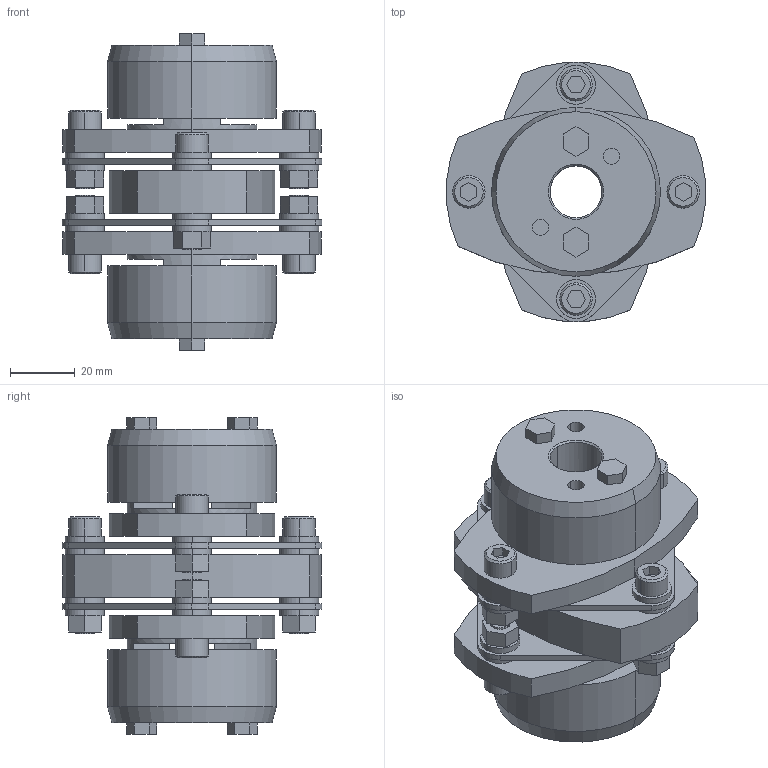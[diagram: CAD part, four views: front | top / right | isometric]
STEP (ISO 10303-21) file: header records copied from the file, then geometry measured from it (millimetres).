
FILE_DESCRIPTION((''),'2;1');
FILE_NAME('LCD-80T7-16×18.stp','2015-10-31T17:18:25',(''),(''),'AutoCAD STEP 2000i','AutoCAD 2000i',', , ');
FILE_SCHEMA(('CONFIG_CONTROL_DESIGN'));
Length unit declared in the file: millimetre
Products named in the file (5): LCD-80T7-17×17; 忣兜1; LC80T7-T017-1; LC80T7-T017; LCD80-ITA
Assembly tree (4 placements, depth 2):
  LCD-80T7-17×17
    忣兜1
    LC80T7-T017-1
    LC80T7-T017
    LCD80-ITA
Bounding box: 80 x 79.95 x 97.5 mm (x, y, z)
Volume: 183837.3 mm3; surface area: 56723.1 mm2
Topology: 1 solids, 1 shells, 306 faces, 744 edges, 488 vertices
Faces by surface type: plane 162, cylinder 120, cone 24
Entity records: 9219 total; most frequent: DIRECTION 1646, CARTESIAN_POINT 1543, ORIENTED_EDGE 1488, EDGE_CURVE 744, AXIS2_PLACEMENT_3D 591, VERTEX_POINT 488, VECTOR 464, LINE 464
